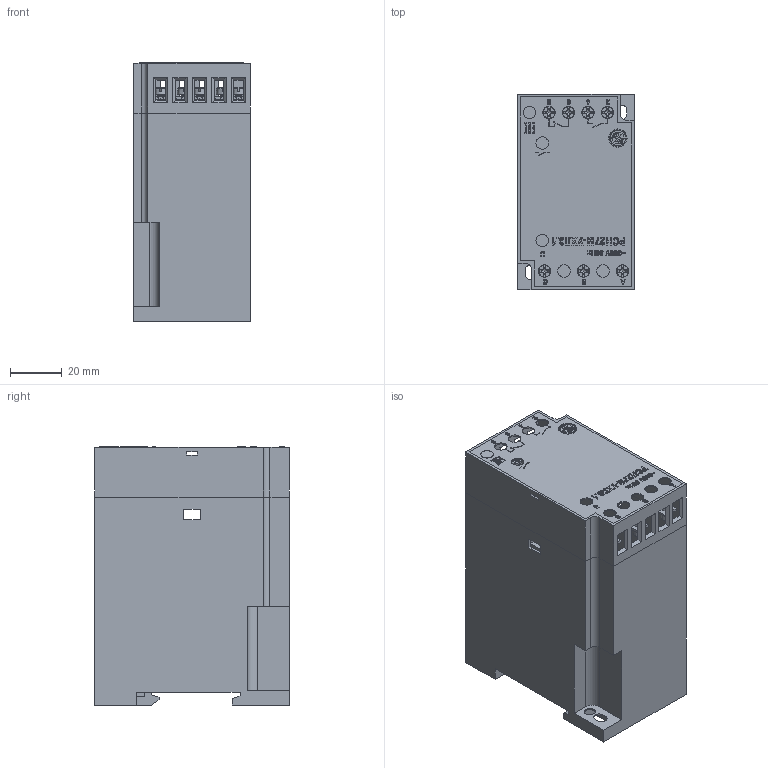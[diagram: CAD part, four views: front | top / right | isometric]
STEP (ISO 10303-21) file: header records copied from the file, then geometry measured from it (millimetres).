
FILE_DESCRIPTION(('STEP AP214'), '1');
FILE_NAME('ﾐﾑﾍ27ﾌ', '', ('UNSPECIFIED'), ('UNSPECIFIED'), 'ASCON STEP Converter 1.6', 'ASCON Math Kernel', '');
FILE_SCHEMA(('AUTOMOTIVE_DESIGN { 1 0 10303 214 3 1 1}'));
Length unit declared in the file: millimetre
Products named in the file (9): 襠窏.301612.; 襠窏.753512.139
Assembly tree (14 placements, depth 3):
  (unnamed)
    (unnamed)
    (unnamed)
    襠窏.301612.  x7
      (unnamed)
      (unnamed)
    (unnamed)
    (unnamed)
    襠窏.753512.139
Bounding box: 45 x 75 x 99.3 mm (x, y, z)
Volume: 30564.3 mm3; surface area: 62024 mm2
Topology: 19 solids, 19 shells, 2338 faces, 6287 edges, 4056 vertices
Faces by surface type: plane 1063, cylinder 1055, cone 112, bspline 73, torus 35
Full cylindrical faces by diameter (mm): 2.3 x7, 3 x7, 4.2 x2, 4.8 x12
Entity records: 75172 total; most frequent: CARTESIAN_POINT 13957, DIRECTION 10223, ORIENTED_EDGE 9746, EDGE_CURVE 4873, AXIS2_PLACEMENT_3D 3698, VERTEX_POINT 3240, LINE 2827, VECTOR 2827
